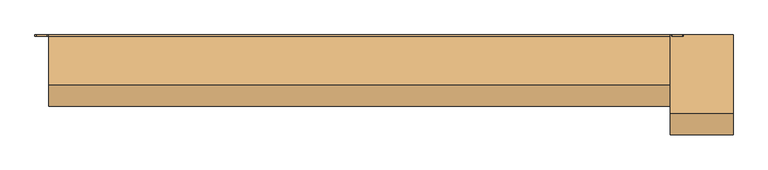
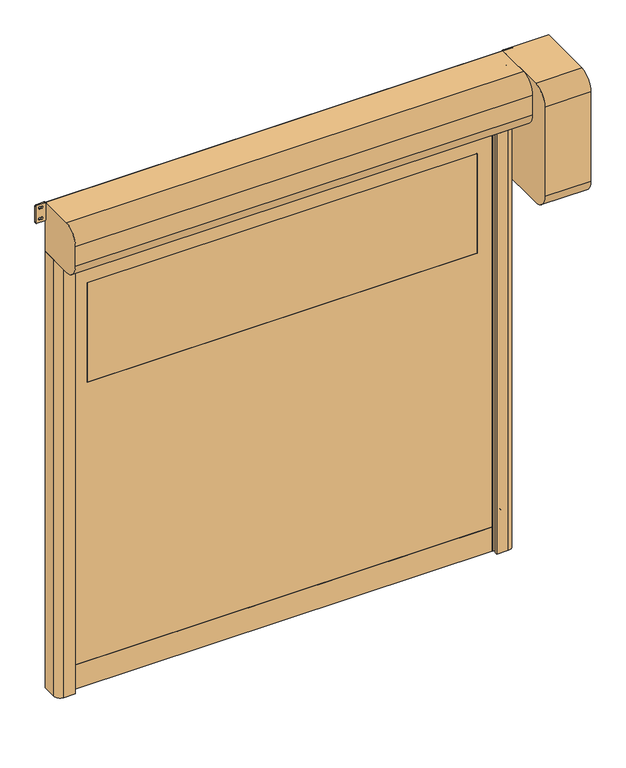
"""IFC4 building model written with IfcOpenShell, lengths in millimetres: door geometry, DO_WPB_Dynamicroll_BMP : Dynamicroll Food Inox."""

from ifc_helpers import new_model, si_unit, point, frame, frame_2d, origin, origin_with_axes, place, context, project, spatial, polyline, circle_curve, trimmed, segment, composite_curve, outline, extrude, source, transform, mapped, element, save


def door_15535e37(model_context):
    return source(origin(), model_context, "Body", "SweptSolid", [
        extrude(outline(composite_curve([segment(trimmed(circle_curve(frame_2d((1416.6666667, 1048.5)), 6.0), [point((1422.6666667, 1048.5))], [point((1410.6666667, 1048.5))], False, "CARTESIAN"), True, "CONTINUOUS"), segment(polyline([(1410.6666667, 1048.5), (1410.6666667, 1066.5)]), True, "CONTINUOUS"), segment(trimmed(circle_curve(frame_2d((1416.6666667, 1066.5)), 6.0), [point((1410.6666667, 1066.5))], [point((1422.6666667, 1066.5))], False, "CARTESIAN"), True, "CONTINUOUS"), segment(polyline([(1422.6666667, 1066.5), (1422.6666667, 1048.5)]), True, "CONTINUOUS")], self_intersect=False)), frame((0.0, -20.0, 0.0), z_axis=(0.0, 1.0, 0.0), x_axis=(0.0, 0.0, 1.0)), (0.0, 0.0, 1.0), 20.0),
        extrude(outline(composite_curve([segment(trimmed(circle_curve(frame_2d((783.3333333, 1048.5)), 6.0), [point((789.3333333, 1048.5))], [point((777.3333333, 1048.5))], False, "CARTESIAN"), True, "CONTINUOUS"), segment(polyline([(777.3333333, 1048.5), (777.3333333, 1066.5)]), True, "CONTINUOUS"), segment(trimmed(circle_curve(frame_2d((783.3333333, 1066.5)), 6.0), [point((777.3333333, 1066.5))], [point((789.3333333, 1066.5))], False, "CARTESIAN"), True, "CONTINUOUS"), segment(polyline([(789.3333333, 1066.5), (789.3333333, 1048.5)]), True, "CONTINUOUS")], self_intersect=False)), frame((0.0, -20.0, 0.0), z_axis=(0.0, 1.0, 0.0), x_axis=(0.0, 0.0, 1.0)), (0.0, 0.0, 1.0), 20.0),
        extrude(outline(composite_curve([segment(trimmed(circle_curve(frame_2d((2050.0, 1048.5)), 6.0), [point((2056.0, 1048.5))], [point((2044.0, 1048.5))], False, "CARTESIAN"), True, "CONTINUOUS"), segment(polyline([(2044.0, 1048.5), (2044.0, 1066.5)]), True, "CONTINUOUS"), segment(trimmed(circle_curve(frame_2d((2050.0, 1066.5)), 6.0), [point((2044.0, 1066.5))], [point((2056.0, 1066.5))], False, "CARTESIAN"), True, "CONTINUOUS"), segment(polyline([(2056.0, 1066.5), (2056.0, 1048.5)]), True, "CONTINUOUS")], self_intersect=False)), frame((0.0, -20.0, 0.0), z_axis=(0.0, 1.0, 0.0), x_axis=(0.0, 0.0, 1.0)), (0.0, 0.0, 1.0), 20.0),
        extrude(outline(composite_curve([segment(trimmed(circle_curve(frame_2d((150.0, 1048.5)), 6.0), [point((156.0, 1048.5))], [point((144.0, 1048.5))], False, "CARTESIAN"), True, "CONTINUOUS"), segment(polyline([(144.0, 1048.5), (144.0, 1066.5)]), True, "CONTINUOUS"), segment(trimmed(circle_curve(frame_2d((150.0, 1066.5)), 6.0), [point((144.0, 1066.5))], [point((156.0, 1066.5))], False, "CARTESIAN"), True, "CONTINUOUS"), segment(polyline([(156.0, 1066.5), (156.0, 1048.5)]), True, "CONTINUOUS")], self_intersect=False)), frame((0.0, -20.0, 0.0), z_axis=(0.0, 1.0, 0.0), x_axis=(0.0, 0.0, 1.0)), (0.0, 0.0, 1.0), 20.0),
        extrude(outline(composite_curve([segment(polyline([(1422.6666667, -1048.5), (1422.6666667, -1066.5)]), True, "CONTINUOUS"), segment(trimmed(circle_curve(frame_2d((1416.6666667, -1066.5)), 6.0), [point((1422.6666667, -1066.5))], [point((1410.6666667, -1066.5))], False, "CARTESIAN"), True, "CONTINUOUS"), segment(polyline([(1410.6666667, -1066.5), (1410.6666667, -1048.5)]), True, "CONTINUOUS"), segment(trimmed(circle_curve(frame_2d((1416.6666667, -1048.5)), 6.0), [point((1410.6666667, -1048.5))], [point((1422.6666667, -1048.5))], False, "CARTESIAN"), True, "CONTINUOUS")], self_intersect=False)), frame((0.0, -20.0, 0.0), z_axis=(0.0, 1.0, 0.0), x_axis=(0.0, 0.0, 1.0)), (0.0, 0.0, 1.0), 20.0),
        extrude(outline(composite_curve([segment(polyline([(789.3333333, -1048.5), (789.3333333, -1066.5)]), True, "CONTINUOUS"), segment(trimmed(circle_curve(frame_2d((783.3333333, -1066.5)), 6.0), [point((789.3333333, -1066.5))], [point((777.3333333, -1066.5))], False, "CARTESIAN"), True, "CONTINUOUS"), segment(polyline([(777.3333333, -1066.5), (777.3333333, -1048.5)]), True, "CONTINUOUS"), segment(trimmed(circle_curve(frame_2d((783.3333333, -1048.5)), 6.0), [point((777.3333333, -1048.5))], [point((789.3333333, -1048.5))], False, "CARTESIAN"), True, "CONTINUOUS")], self_intersect=False)), frame((0.0, -20.0, 0.0), z_axis=(0.0, 1.0, 0.0), x_axis=(0.0, 0.0, 1.0)), (0.0, 0.0, 1.0), 20.0),
        extrude(outline(composite_curve([segment(polyline([(2056.0, -1048.5), (2056.0, -1066.5)]), True, "CONTINUOUS"), segment(trimmed(circle_curve(frame_2d((2050.0, -1066.5)), 6.0), [point((2056.0, -1066.5))], [point((2044.0, -1066.5))], False, "CARTESIAN"), True, "CONTINUOUS"), segment(polyline([(2044.0, -1066.5), (2044.0, -1048.5)]), True, "CONTINUOUS"), segment(trimmed(circle_curve(frame_2d((2050.0, -1048.5)), 6.0), [point((2044.0, -1048.5))], [point((2056.0, -1048.5))], False, "CARTESIAN"), True, "CONTINUOUS")], self_intersect=False)), frame((0.0, -20.0, 0.0), z_axis=(0.0, 1.0, 0.0), x_axis=(0.0, 0.0, 1.0)), (0.0, 0.0, 1.0), 20.0),
        extrude(outline(composite_curve([segment(polyline([(156.0, -1048.5), (156.0, -1066.5)]), True, "CONTINUOUS"), segment(trimmed(circle_curve(frame_2d((150.0, -1066.5)), 6.0), [point((156.0, -1066.5))], [point((144.0, -1066.5))], False, "CARTESIAN"), True, "CONTINUOUS"), segment(polyline([(144.0, -1066.5), (144.0, -1048.5)]), True, "CONTINUOUS"), segment(trimmed(circle_curve(frame_2d((150.0, -1048.5)), 6.0), [point((144.0, -1048.5))], [point((156.0, -1048.5))], False, "CARTESIAN"), True, "CONTINUOUS")], self_intersect=False)), frame((0.0, -20.0, 0.0), z_axis=(0.0, 1.0, 0.0), x_axis=(0.0, 0.0, 1.0)), (0.0, 0.0, 1.0), 20.0),
        extrude(outline(composite_curve([segment(trimmed(circle_curve(frame_2d((1526.0, 929.0)), 1.0), [point((1525.0, 929.0))], [point((1526.0, 930.0))], False, "CARTESIAN"), True, "CONTINUOUS"), segment(polyline([(1526.0, 930.0), (2024.0, 930.0)]), True, "CONTINUOUS"), segment(trimmed(circle_curve(frame_2d((2024.0, 929.0)), 1.0), [point((2024.0, 930.0))], [point((2025.0, 929.0))], False, "CARTESIAN"), True, "CONTINUOUS"), segment(polyline([(2025.0, 929.0), (2025.0, -929.0)]), True, "CONTINUOUS"), segment(trimmed(circle_curve(frame_2d((2024.0, -929.0)), 1.0), [point((2025.0, -929.0))], [point((2024.0, -930.0))], False, "CARTESIAN"), True, "CONTINUOUS"), segment(polyline([(2024.0, -930.0), (1526.0, -930.0)]), True, "CONTINUOUS"), segment(trimmed(circle_curve(frame_2d((1526.0, -929.0)), 1.0), [point((1526.0, -930.0))], [point((1525.0, -929.0))], False, "CARTESIAN"), True, "CONTINUOUS"), segment(polyline([(1525.0, -929.0), (1525.0, 929.0)]), True, "CONTINUOUS")], self_intersect=False)), frame((0.0, -68.5, 0.0), z_axis=(0.0, 1.0, 0.0), x_axis=(0.0, 0.0, 1.0)), (0.0, 0.0, 1.0), 7.0),
        extrude(outline(polyline([(120.0, -1012.0), (120.0, 1012.0), (2325.0, 1012.0), (2325.0, -1012.0), (120.0, -1012.0)]), holes=[composite_curve([segment(trimmed(circle_curve(frame_2d((1526.0, 929.0)), 1.0), [point((1526.0, 930.0))], [point((1525.0, 929.0))], True, "CARTESIAN"), True, "CONTINUOUS"), segment(polyline([(1525.0, 929.0), (1525.0, -929.0)]), True, "CONTINUOUS"), segment(trimmed(circle_curve(frame_2d((1526.0, -929.0)), 1.0), [point((1525.0, -929.0))], [point((1526.0, -930.0))], True, "CARTESIAN"), True, "CONTINUOUS"), segment(polyline([(1526.0, -930.0), (2024.0, -930.0)]), True, "CONTINUOUS"), segment(trimmed(circle_curve(frame_2d((2024.0, -929.0)), 1.0), [point((2024.0, -930.0))], [point((2025.0, -929.0))], True, "CARTESIAN"), True, "CONTINUOUS"), segment(polyline([(2025.0, -929.0), (2025.0, 929.0)]), True, "CONTINUOUS"), segment(trimmed(circle_curve(frame_2d((2024.0, 929.0)), 1.0), [point((2025.0, 929.0))], [point((2024.0, 930.0))], True, "CARTESIAN"), True, "CONTINUOUS"), segment(polyline([(2024.0, 930.0), (1526.0, 930.0)]), True, "CONTINUOUS")], self_intersect=False)]), frame((0.0, -68.5, 0.0), z_axis=(0.0, 1.0, 0.0), x_axis=(0.0, 0.0, 1.0)), (0.0, 0.0, 1.0), 7.0),
        extrude(outline(polyline([(-1012.0, -59.5), (1012.0, -59.5), (1012.0, -70.5), (-1012.0, -70.5), (-1012.0, -59.5)])), origin_with_axes(), (0.0, 0.0, 1.0), 120.0),
        extrude(outline(composite_curve([segment(trimmed(circle_curve(frame_2d((2363.75, 1095.75)), 5.75), [point((2363.75, 1090.0))], [point((2358.0, 1095.75))], False, "CARTESIAN"), True, "CONTINUOUS"), segment(polyline([(2358.0, 1095.75), (2358.0, 1133.25)]), True, "CONTINUOUS"), segment(trimmed(circle_curve(frame_2d((2363.75, 1133.25)), 5.75), [point((2358.0, 1133.25))], [point((2363.75, 1139.0))], False, "CARTESIAN"), True, "CONTINUOUS"), segment(polyline([(2363.75, 1139.0), (2444.25, 1139.0)]), True, "CONTINUOUS"), segment(trimmed(circle_curve(frame_2d((2444.25, 1133.25)), 5.75), [point((2444.25, 1139.0))], [point((2450.0, 1133.25))], False, "CARTESIAN"), True, "CONTINUOUS"), segment(polyline([(2450.0, 1133.25), (2450.0, 1095.75)]), True, "CONTINUOUS"), segment(trimmed(circle_curve(frame_2d((2444.25, 1095.75)), 5.75), [point((2450.0, 1095.75))], [point((2444.25, 1090.0))], False, "CARTESIAN"), True, "CONTINUOUS"), segment(polyline([(2444.25, 1090.0), (2363.75, 1090.0)]), True, "CONTINUOUS")], self_intersect=False), holes=[composite_curve([segment(trimmed(circle_curve(frame_2d((2431.5, 1118.75)), 5.75), [point((2437.25, 1118.75))], [point((2425.75, 1118.75))], True, "CARTESIAN"), True, "CONTINUOUS"), segment(polyline([(2425.75, 1118.75), (2425.75, 1110.25)]), True, "CONTINUOUS"), segment(trimmed(circle_curve(frame_2d((2431.5, 1110.25)), 5.75), [point((2425.75, 1110.25))], [point((2437.25, 1110.25))], True, "CARTESIAN"), True, "CONTINUOUS"), segment(polyline([(2437.25, 1110.25), (2437.25, 1118.75)]), True, "CONTINUOUS")], self_intersect=False), composite_curve([segment(trimmed(circle_curve(frame_2d((2376.5, 1118.75)), 5.75), [point((2382.25, 1118.75))], [point((2370.75, 1118.75))], True, "CARTESIAN"), True, "CONTINUOUS"), segment(polyline([(2370.75, 1118.75), (2370.75, 1110.25)]), True, "CONTINUOUS"), segment(trimmed(circle_curve(frame_2d((2376.5, 1110.25)), 5.75), [point((2370.75, 1110.25))], [point((2382.25, 1110.25))], True, "CARTESIAN"), True, "CONTINUOUS"), segment(polyline([(2382.25, 1110.25), (2382.25, 1118.75)]), True, "CONTINUOUS")], self_intersect=False)]), frame((0.0, -5.0, 0.0), z_axis=(0.0, 1.0, 0.0), x_axis=(0.0, 0.0, 1.0)), (0.0, 0.0, 1.0), 5.0),
        extrude(outline(composite_curve([segment(trimmed(circle_curve(frame_2d((2363.75, -1133.25)), 5.75), [point((2363.75, -1139.0))], [point((2358.0, -1133.25))], False, "CARTESIAN"), True, "CONTINUOUS"), segment(polyline([(2358.0, -1133.25), (2358.0, -1095.75)]), True, "CONTINUOUS"), segment(trimmed(circle_curve(frame_2d((2363.75, -1095.75)), 5.75), [point((2358.0, -1095.75))], [point((2363.75, -1090.0))], False, "CARTESIAN"), True, "CONTINUOUS"), segment(polyline([(2363.75, -1090.0), (2444.25, -1090.0)]), True, "CONTINUOUS"), segment(trimmed(circle_curve(frame_2d((2444.25, -1095.75)), 5.75), [point((2444.25, -1090.0))], [point((2450.0, -1095.75))], False, "CARTESIAN"), True, "CONTINUOUS"), segment(polyline([(2450.0, -1095.75), (2450.0, -1133.25)]), True, "CONTINUOUS"), segment(trimmed(circle_curve(frame_2d((2444.25, -1133.25)), 5.75), [point((2450.0, -1133.25))], [point((2444.25, -1139.0))], False, "CARTESIAN"), True, "CONTINUOUS"), segment(polyline([(2444.25, -1139.0), (2363.75, -1139.0)]), True, "CONTINUOUS")], self_intersect=False), holes=[composite_curve([segment(trimmed(circle_curve(frame_2d((2431.5, -1110.25)), 5.75), [point((2437.25, -1110.25))], [point((2425.75, -1110.25))], True, "CARTESIAN"), True, "CONTINUOUS"), segment(polyline([(2425.75, -1110.25), (2425.75, -1118.75)]), True, "CONTINUOUS"), segment(trimmed(circle_curve(frame_2d((2431.5, -1118.75)), 5.75), [point((2425.75, -1118.75))], [point((2437.25, -1118.75))], True, "CARTESIAN"), True, "CONTINUOUS"), segment(polyline([(2437.25, -1118.75), (2437.25, -1110.25)]), True, "CONTINUOUS")], self_intersect=False), composite_curve([segment(trimmed(circle_curve(frame_2d((2376.5, -1110.25)), 5.75), [point((2382.25, -1110.25))], [point((2370.75, -1110.25))], True, "CARTESIAN"), True, "CONTINUOUS"), segment(polyline([(2370.75, -1110.25), (2370.75, -1118.75)]), True, "CONTINUOUS"), segment(trimmed(circle_curve(frame_2d((2376.5, -1118.75)), 5.75), [point((2370.75, -1118.75))], [point((2382.25, -1118.75))], True, "CARTESIAN"), True, "CONTINUOUS"), segment(polyline([(2382.25, -1118.75), (2382.25, -1110.25)]), True, "CONTINUOUS")], self_intersect=False)]), frame((0.0, -5.0, 0.0), z_axis=(0.0, 1.0, 0.0), x_axis=(0.0, 0.0, 1.0)), (0.0, 0.0, 1.0), 5.0),
        extrude(outline(composite_curve([segment(polyline([(-1090.0, 0.0), (-1015.0, 0.0), (-1015.0, -49.2857143), (-1035.0, -55.0), (-1000.0, -55.0), (-1000.0, -61.5), (-1020.0, -61.5), (-1020.0, -68.5), (-1000.0, -68.5), (-1000.0, -75.0), (-1035.0, -75.0), (-1035.0, -90.0), (-1005.0, -90.0), (-1005.0, -100.0), (-1060.0, -100.0)]), True, "CONTINUOUS"), segment(trimmed(circle_curve(frame_2d((-1060.0, -70.0)), 30.0), [point((-1060.0, -100.0))], [point((-1090.0, -70.0))], False, "CARTESIAN"), True, "CONTINUOUS"), segment(polyline([(-1090.0, -70.0), (-1090.0, 0.0)]), True, "CONTINUOUS")], self_intersect=False)), origin_with_axes(), (0.0, 0.0, 1.0), 2200.0),
        extrude(outline(composite_curve([segment(polyline([(1090.0, 0.0), (1090.0, -70.0)]), True, "CONTINUOUS"), segment(trimmed(circle_curve(frame_2d((1060.0, -70.0)), 30.0), [point((1090.0, -70.0))], [point((1060.0, -100.0))], False, "CARTESIAN"), True, "CONTINUOUS"), segment(polyline([(1060.0, -100.0), (1005.0, -100.0), (1005.0, -90.0), (1035.0, -90.0), (1035.0, -75.0), (1000.0, -75.0), (1000.0, -68.5), (1020.0, -68.5), (1020.0, -61.5), (1000.0, -61.5), (1000.0, -55.0), (1035.0, -55.0), (1015.0, -49.2857143), (1015.0, 0.0), (1090.0, 0.0)]), True, "CONTINUOUS")], self_intersect=False)), origin_with_axes(), (0.0, 0.0, 1.0), 2200.0),
        extrude(outline(composite_curve([segment(polyline([(0.0, 2450.0), (0.0, 1850.0), (-275.0, 1850.0)]), True, "CONTINUOUS"), segment(trimmed(circle_curve(frame_2d((-275.0, 1925.0)), 75.0), [point((-275.0, 1850.0))], [point((-350.0, 1925.0))], False, "CARTESIAN"), True, "CONTINUOUS"), segment(polyline([(-350.0, 1925.0), (-350.0, 2375.0)]), True, "CONTINUOUS"), segment(trimmed(circle_curve(frame_2d((-275.0, 2375.0)), 75.0), [point((-350.0, 2375.0))], [point((-275.0, 2450.0))], False, "CARTESIAN"), True, "CONTINUOUS"), segment(polyline([(-275.0, 2450.0), (0.0, 2450.0)]), True, "CONTINUOUS")], self_intersect=False)), frame((1090.0, 0.0, 0.0), z_axis=(1.0, 0.0, 0.0), x_axis=(0.0, 1.0, 0.0)), (0.0, 0.0, 1.0), 220.0),
        extrude(outline(composite_curve([segment(trimmed(circle_curve(frame_2d((-5.0, 2205.0)), 5.0), [point((0.0, 2205.0))], [point((-5.0, 2200.0))], False, "CARTESIAN"), True, "CONTINUOUS"), segment(polyline([(-5.0, 2200.0), (-175.0, 2200.0)]), True, "CONTINUOUS"), segment(trimmed(circle_curve(frame_2d((-175.0, 2275.0)), 75.0), [point((-175.0, 2200.0))], [point((-250.0, 2275.0))], False, "CARTESIAN"), True, "CONTINUOUS"), segment(polyline([(-250.0, 2275.0), (-250.0, 2375.0)]), True, "CONTINUOUS"), segment(trimmed(circle_curve(frame_2d((-175.0, 2375.0)), 75.0), [point((-250.0, 2375.0))], [point((-175.0, 2450.0))], False, "CARTESIAN"), True, "CONTINUOUS"), segment(polyline([(-175.0, 2450.0), (-5.0, 2450.0)]), True, "CONTINUOUS"), segment(trimmed(circle_curve(frame_2d((-5.0, 2445.0)), 5.0), [point((-5.0, 2450.0))], [point((0.0, 2445.0))], False, "CARTESIAN"), True, "CONTINUOUS"), segment(polyline([(0.0, 2445.0), (0.0, 2205.0)]), True, "CONTINUOUS")], self_intersect=False)), frame((-1090.0, 0.0, 0.0), z_axis=(1.0, 0.0, 0.0), x_axis=(0.0, 1.0, 0.0)), (0.0, 0.0, 1.0), 2180.0),
    ])


if __name__ == "__main__":
    model = new_model("IFC4")
    model_context = context("Model", 3, world=origin())
    ifc_project = project(units=[si_unit("LENGTHUNIT", "METRE", prefix="MILLI")], contexts=[model_context])
    site = spatial("IfcSite", under=ifc_project)
    building = spatial("IfcBuilding", under=site)
    placement = place(None, origin())
    door_shape = door_15535e37(model_context)
    element("IfcDoor", 1, ObjectType="DO_WPB_Dynamicroll_BMP : Dynamicroll Food Inox", at=placement, inside=building, context=model_context, shape_type="MappedRepresentation", body=[
        mapped(door_shape, transform((0.0, 0.0, 0.0), x_axis=(1.0, 0.0, 0.0), y_axis=(0.0, 1.0, 0.0), z_axis=(0.0, 0.0, 1.0))),
    ])
    save(model, "model.ifc")
